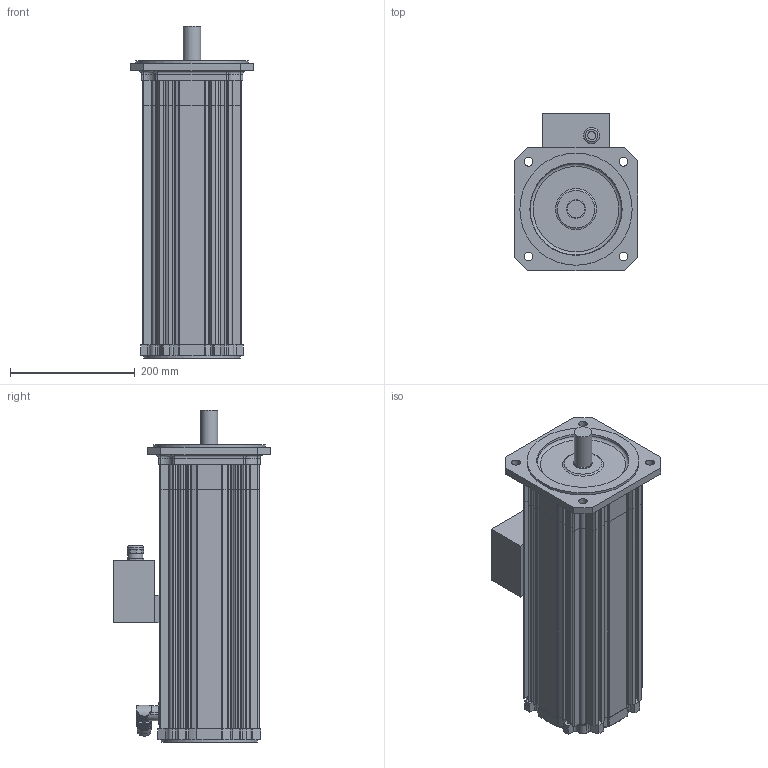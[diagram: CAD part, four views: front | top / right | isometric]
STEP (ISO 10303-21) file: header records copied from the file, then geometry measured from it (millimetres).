
FILE_DESCRIPTION(/* description */ (''),/* implementation_level */ '2;1');
FILE_NAME(/* name */ 'KSA8412_MC_Ix',/* time_stamp */ '2009-03-02T08:58:20+01:00',/* author */ (''),/* organization */ (''),/* preprocessor_version */ 'ST-DEVELOPER v8',/* originating_system */ 'UNIGRAPHICS SOLUTIONS - UNIGRAPHICS 18.0',/* authorisation */ '');
FILE_SCHEMA (('AUTOMOTIVE_DESIGN { 1 2 10303 214 0 1 1 1 }'));
Length unit declared in the file: millimetre
Products named in the file (7): 0280391600_0; Winkelflanschdose_0; Lagersch_8BS_0; Lagersch_8AS_0; 089107X_0; SK3958_0; KSA8412_MC_Ix_0
Assembly tree (6 placements, depth 3):
  KSA8412_MC_Ix_0
    089107X_0
    Lagersch_8AS_0
    Lagersch_8BS_0
    SK3958_0
      0280391600_0
    Winkelflanschdose_0
Bounding box: 198 x 253.35 x 532.5 mm (x, y, z)
Volume: 3911104.5 mm3; surface area: 935854.3 mm2
Topology: 7 solids, 7 shells, 832 faces, 2360 edges, 1563 vertices
Faces by surface type: cylinder 484, plane 323, torus 23, cone 2
Full cylindrical faces by diameter (mm): 13 x1, 14 x4, 16 x1, 20 x3, 21 x1, 21.5 x1, 23 x2, 24 x1, 26 x1, 28 x1, 30 x1, 35 x1, 143 x1, 149.6 x2, 151 x2, 154 x1, 180 x1
Entity records: 27709 total; most frequent: CARTESIAN_POINT 5454, DIRECTION 4726, ORIENTED_EDGE 4644, EDGE_CURVE 2322, AXIS2_PLACEMENT_3D 1729, VERTEX_POINT 1555, LINE 1268, VECTOR 1268
